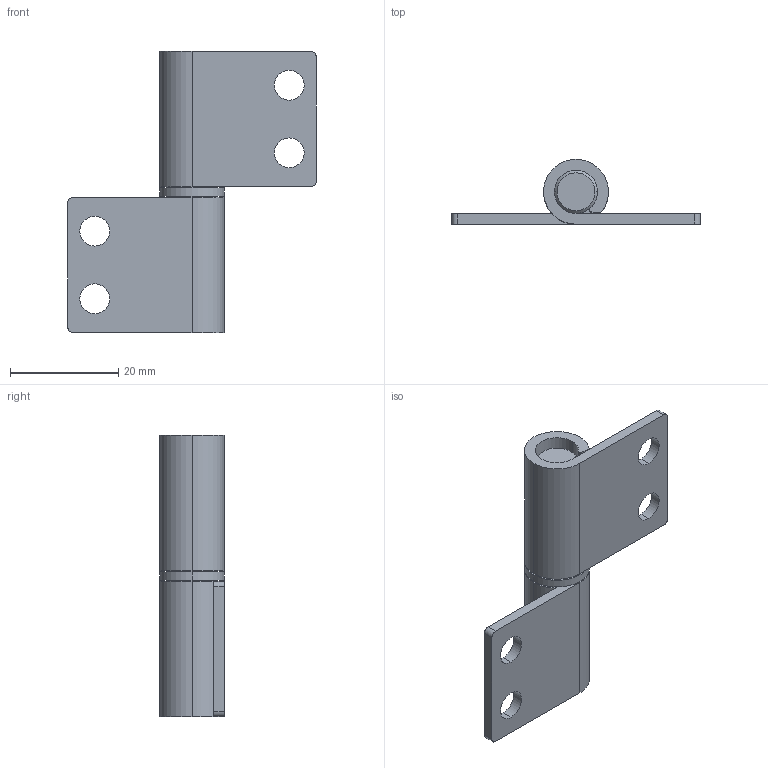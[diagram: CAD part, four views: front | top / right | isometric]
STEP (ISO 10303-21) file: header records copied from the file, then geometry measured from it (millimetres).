
FILE_DESCRIPTION (( 'STEP AP214' ), '1' );
FILE_NAME ('SK2-032-2S.STEP', '2020-04-15T06:11:30', ( 'admin' ), ( 'Microsoft' ), 'SwSTEP 2.0', 'SolidWorks 2018', '' );
FILE_SCHEMA (( 'AUTOMOTIVE_DESIGN' ));
Length unit declared in the file: millimetre
Products named in the file (3): SK2-032-2S-F2; SK2-032-2S-F1; SK2-032-2S
Assembly tree (3 placements, depth 2):
  SK2-032-2S
    SK2-032-2S-F1  x2
    SK2-032-2S-F2
Bounding box: 46 x 12 x 52 mm (x, y, z)
Volume: 7383.8 mm3; surface area: 7060.6 mm2
Topology: 3 solids, 3 shells, 52 faces, 128 edges, 84 vertices
Faces by surface type: cylinder 30, plane 18, cone 4
Entity records: 1085 total; most frequent: DIRECTION 195, CARTESIAN_POINT 166, ORIENTED_EDGE 154, AXIS2_PLACEMENT_3D 79, EDGE_CURVE 77, VERTEX_POINT 50, CIRCLE 40, EDGE_LOOP 39
